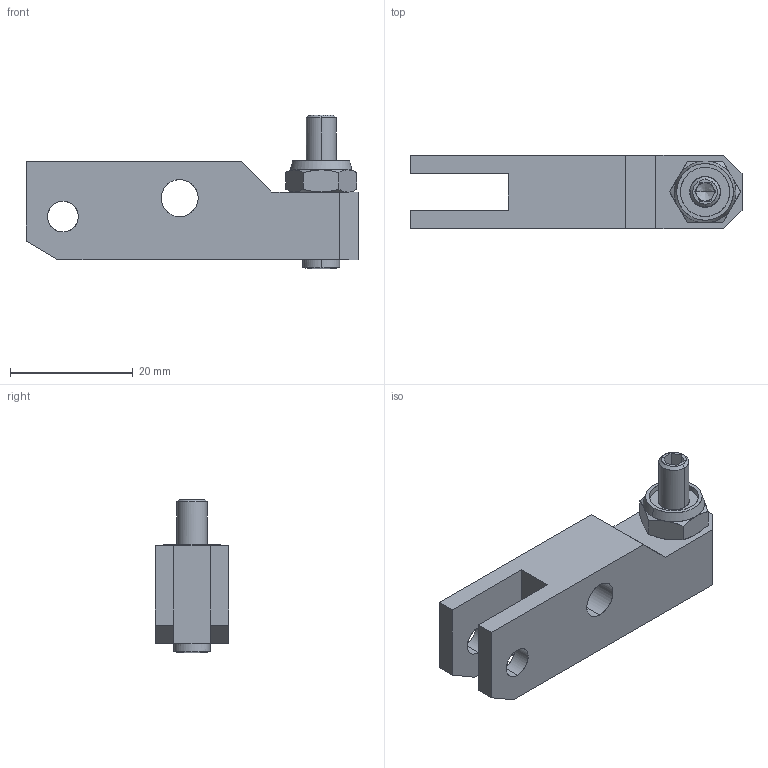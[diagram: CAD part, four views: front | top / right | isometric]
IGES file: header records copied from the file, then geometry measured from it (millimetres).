
Start section: Comment
Global section: file name: JL5H28_ClampArm.igs; native system:  By Spatial Corp.; preprocessor: XPlus GENERIC/IGES 3.0; author: Author; organization: Title; date: 20080526.102132; units: millimetre
Bounding box: 54 x 12 x 25 mm (x, y, z)
Surface area: 4635.7 mm2 (no closed solid volume)
Topology: 0 solids, 0 shells, 82 faces, 390 edges, 384 vertices
Faces by surface type: bspline 82
